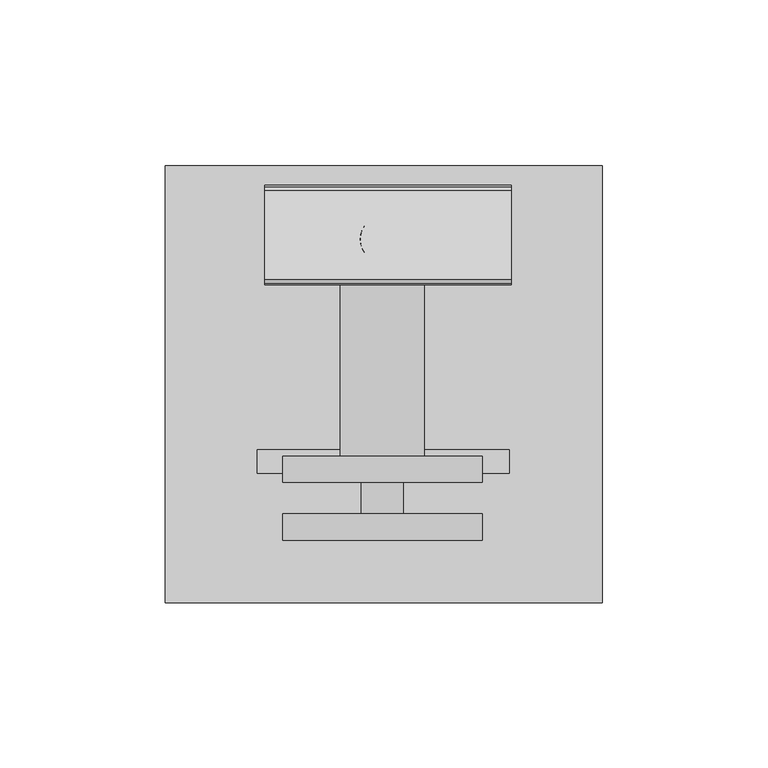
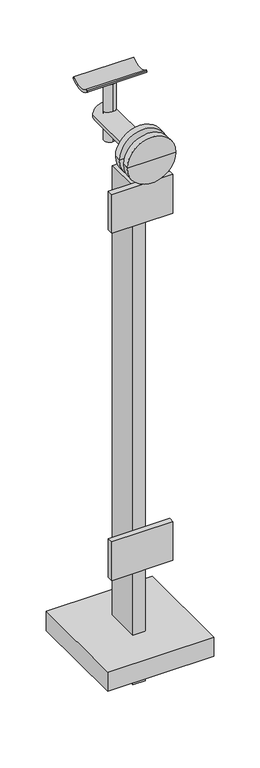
"""IFC4 building model written with IfcOpenShell, lengths in millimetres: proxy geometry, Baluster-End-Post-VIVA-STRUC-Top Mount-Stair : ANCHORED TO CONCRETE_TOP MOUNT STRUC_STAIR."""

from ifc_helpers import new_model, si_unit, point, frame, frame_2d, origin, place, context, project, spatial, polyline, circle_curve, trimmed, segment, composite_curve, outline, extrude, source, transform, mapped, element, save
from ifc_brep_helpers import plane_surface, cylinder_surface, advanced_brep


def building_element_proxy_0a0706d1(model_context):
    return source(origin(), model_context, "Body", "SolidModel", [
        advanced_brep(
        [(-30.4813346, -136.2128652, 156.7243555), (-6.6688346, -136.2128652, 156.7243555), (6.0311654, -136.2128652, 156.7243555), (29.8436654, -136.2128652, 156.7243555), (-30.4813346, -144.1503652, 156.7243555), (29.8436654, -144.1503652, 156.7243555), (-30.4813346, -118.7498509, 156.7243555), (-13.0188346, -118.7498509, 156.7243555), (12.3811654, -118.7498509, 156.7243555), (29.8436654, -118.7498509, 156.7243555), (-30.4813346, -126.6873509, 156.7243555), (29.8436654, -126.6873509, 156.7243555), (-0.3188346, -144.1503652, 156.7243555), (-13.0188346, -39.3748509, 156.7243555), (-0.3188346, -39.3748509, 156.7243555), (12.3811654, -39.3748509, 156.7243555), (-6.6688346, -126.6873509, 156.7243555), (6.0311654, -126.6873509, 156.7243555)],
        [
            (0, 1),
            (1, 2, circle_curve(frame((-0.3188346, -136.2128652, 156.7243555), z_axis=(0.0, -1.0, 0.0), x_axis=(1.0, 0.0, 0.0)), 6.35)),
            (2, 3),
            (3, 0, circle_curve(frame((-0.3188346, -136.2128652, 156.7243555), z_axis=(0.0, 1.0, 0.0), x_axis=(1.0, 0.0, 0.0)), 30.1625)),
            (4, 0),
            (3, 5),
            (5, 4, circle_curve(frame((-0.3188346, -144.1503652, 156.7243555), z_axis=(0.0, 1.0, 0.0), x_axis=(1.0, 0.0, 0.0)), 30.1625)),
            (6, 7),
            (7, 8, circle_curve(frame((-0.3188346, -118.7498509, 156.7243555), z_axis=(0.0, -1.0, 0.0), x_axis=(1.0, 0.0, 0.0)), 12.7)),
            (8, 9),
            (9, 6, circle_curve(frame((-0.3188346, -118.7498509, 156.7243555), z_axis=(0.0, 1.0, 0.0), x_axis=(1.0, 0.0, 0.0)), 30.1625)),
            (10, 6),
            (9, 11),
            (11, 10, circle_curve(frame((-0.3188346, -126.6873509, 156.7243555), z_axis=(0.0, 1.0, 0.0), x_axis=(1.0, 0.0, 0.0)), 30.1625)),
            (3, 0, circle_curve(frame((-0.3188346, -136.2128652, 156.7243555), z_axis=(0.0, -1.0, 0.0), x_axis=(1.0, 0.0, 0.0)), 30.1625)),
            (4, 5, circle_curve(frame((-0.3188346, -144.1503652, 156.7243555), z_axis=(0.0, 1.0, 0.0), x_axis=(1.0, 0.0, 0.0)), 30.1625)),
            (12, 4),
            (5, 12),
            (13, 14),
            (14, 15),
            (15, 13, circle_curve(frame((-0.3188346, -39.3748509, 156.7243555), z_axis=(0.0, 1.0, 0.0), x_axis=(1.0, 0.0, 0.0)), 12.7)),
            (13, 15, circle_curve(frame((-0.3188346, -39.3748509, 156.7243555), z_axis=(0.0, 1.0, 0.0), x_axis=(1.0, 0.0, 0.0)), 12.7)),
            (7, 13),
            (15, 8),
            (7, 8, circle_curve(frame((-0.3188346, -118.7498509, 156.7243555), z_axis=(0.0, 1.0, 0.0), x_axis=(1.0, 0.0, 0.0)), 12.7)),
            (6, 9, circle_curve(frame((-0.3188346, -118.7498509, 156.7243555), z_axis=(0.0, 1.0, 0.0), x_axis=(1.0, 0.0, 0.0)), 30.1625)),
            (10, 11, circle_curve(frame((-0.3188346, -126.6873509, 156.7243555), z_axis=(0.0, 1.0, 0.0), x_axis=(1.0, 0.0, 0.0)), 30.1625)),
            (16, 10),
            (11, 17),
            (17, 16, circle_curve(frame((-0.3188346, -126.6873509, 156.7243555), z_axis=(0.0, 1.0, 0.0), x_axis=(1.0, 0.0, 0.0)), 6.35)),
            (16, 17, circle_curve(frame((-0.3188346, -126.6873509, 156.7243555), z_axis=(0.0, 1.0, 0.0), x_axis=(1.0, 0.0, 0.0)), 6.35)),
            (1, 16),
            (17, 2),
            (1, 2, circle_curve(frame((-0.3188346, -136.2128652, 156.7243555), z_axis=(0.0, 1.0, 0.0), x_axis=(1.0, 0.0, 0.0)), 6.35)),
        ],
        [
            plane_surface(frame((-0.3188346, -136.2128652, 156.7243555), z_axis=(0.0, 1.0, 0.0), x_axis=(1.0, 0.0, 0.0))),
            cylinder_surface(frame((-0.3188346, -1650.6873509, 156.7243555), z_axis=(0.0, -1.0, 0.0), x_axis=(1.0, 0.0, 0.0)), 30.1625),
            plane_surface(frame((-0.3188346, -118.7498509, 156.7243555), z_axis=(0.0, 1.0, 0.0), x_axis=(1.0, 0.0, 0.0))),
            plane_surface(frame((-0.3188346, -144.1503652, 156.7243555), z_axis=(0.0, -1.0, 0.0), x_axis=(1.0, 0.0, 0.0))),
            plane_surface(frame((-0.3188346, -39.3748509, 156.7243555), z_axis=(0.0, 1.0, 0.0), x_axis=(1.0, 0.0, 0.0))),
            cylinder_surface(frame((-0.3188346, -1650.6873509, 156.7243555), z_axis=(0.0, -1.0, 0.0), x_axis=(1.0, 0.0, 0.0)), 12.7),
            plane_surface(frame((-0.3188346, -126.6873509, 156.7243555), z_axis=(0.0, -1.0, 0.0), x_axis=(1.0, 0.0, 0.0))),
            cylinder_surface(frame((-0.3188346, -1650.6873509, 156.7243555), z_axis=(0.0, -1.0, 0.0), x_axis=(1.0, 0.0, 0.0)), 6.35),
        ],
        [
            (0, [[1, 2, 3, 4]]),
            (1, [[5, -4, 6, 7]]),
            (2, [[8, 9, 10, 11]]),
            (1, [[12, -11, 13, 14]]),
            (1, [[-6, 15, -5, 16]]),
            (3, [[17, -7, 18]]),
            (3, [[-18, -16, -17]]),
            (4, [[19, 20, 21]]),
            (4, [[-20, -19, 22]]),
            (5, [[23, -21, 24, -9]]),
            (5, [[-24, -22, -23, 25]]),
            (2, [[-10, -25, -8, 26]]),
            (1, [[-13, -26, -12, 27]]),
            (6, [[28, -14, 29, 30]]),
            (6, [[-29, -27, -28, 31]]),
            (7, [[32, -30, 33, -2]]),
            (7, [[-33, -31, -32, 34]]),
            (0, [[-3, -34, -1, -15]]),
        ],
    ),
        extrude(outline(composite_curve([segment(trimmed(circle_curve(frame_2d((0.0, 7.0)), 7.0), [point((0.0, 14.0))], [point((0.0, 0.0))], False, "CARTESIAN"), True, "CONTINUOUS"), segment(trimmed(circle_curve(frame_2d((0.0, 7.0)), 7.0), [point((0.0, 0.0))], [point((0.0, 14.0))], False, "CARTESIAN"), True, "CONTINUOUS")], self_intersect=False)), frame((-0.0962106, -60.22249, 129.823392), z_axis=(0.0012664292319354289, 0.0, 0.9999991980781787), x_axis=(0.9999991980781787, 0.0, -0.0012664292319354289)), (0.0, 0.0, 1.0), 75.97),
        extrude(outline(composite_curve([segment(trimmed(circle_curve(frame_2d((18.6575251, 0.3952033)), 19.05), [point((5.2466064, 13.9247915))], [point((5.2466064, -13.134385))], True, "CARTESIAN"), True, "CONTINUOUS"), segment(polyline([(5.2466064, -13.134385), (4.2292193, -14.1607746)]), True, "CONTINUOUS"), segment(trimmed(circle_curve(frame_2d((3.1638974, -13.1047967)), 1.5), [point((4.2292193, -14.1607746))], [point((2.0329757, -14.0901982))], False, "CARTESIAN"), True, "CONTINUOUS"), segment(trimmed(circle_curve(frame_2d((18.6575251, 0.3952033)), 22.05), [point((2.0329757, -14.0901982))], [point((2.0329757, 14.8806047))], False, "CARTESIAN"), True, "CONTINUOUS"), segment(trimmed(circle_curve(frame_2d((3.1638974, 13.8952033)), 1.5), [point((2.0329757, 14.8806047))], [point((4.2292193, 14.9511811))], False, "CARTESIAN"), True, "CONTINUOUS"), segment(polyline([(4.2292193, 14.9511811), (5.2466064, 13.9247915)]), True, "CONTINUOUS")], self_intersect=False)), frame((-35.8856441, -51.4952577, 209.2122068), z_axis=(0.9999999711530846, 0.0, 0.0002401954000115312), x_axis=(-0.0002401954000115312, 0.0, 0.9999999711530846)), (0.0, 0.0, 1.0), 74.5229187),
        extrude(outline(polyline([(-38.1007192, -123.8478567), (-38.1007192, -116.7358567), (38.1007192, -116.7358567), (38.1007192, -123.8478567), (-38.1007192, -123.8478567)])), frame((0.0, 0.0, 61.2476928), z_axis=(0.0, 0.0, 1.0), x_axis=(1.0, 0.0, 0.0)), (0.0, 0.0, 1.0), 50.8),
        extrude(outline(polyline([(-38.1007192, -123.8478567), (-38.1007192, -116.7358567), (38.1007192, -116.7358567), (38.1007192, -123.8478567), (-38.1007192, -123.8478567)])), frame((0.0, 0.0, -395.9523072), z_axis=(0.0, 0.0, 1.0), x_axis=(1.0, 0.0, 0.0)), (0.0, 0.0, 1.0), 50.8),
        extrude(outline(polyline([(66.11875, -30.878288), (66.11875, -162.878288), (-65.88125, -162.878288), (-65.88125, -30.878288), (66.11875, -30.878288)])), frame((0.0, 0.0, -508.6286445), z_axis=(0.0, 0.0, 1.0), x_axis=(1.0, 0.0, 0.0)), (0.0, 0.0, 1.0), 25.4),
        extrude(outline(polyline([(-7.9375, -72.2858567), (7.9375, -72.2858567), (7.9375, -116.7358567), (-7.9375, -116.7358567), (-7.9375, -72.2858567)])), frame((0.0, 0.0, -548.3523072), z_axis=(0.0, 0.0, 1.0), x_axis=(1.0, 0.0, 0.0)), (0.0, 0.0, 1.0), 656.9868373),
    ])


if __name__ == "__main__":
    model = new_model("IFC4")
    model_context = context("Model", 3, world=origin())
    ifc_project = project(units=[si_unit("LENGTHUNIT", "METRE", prefix="MILLI")], contexts=[model_context])
    site = spatial("IfcSite", under=ifc_project)
    building = spatial("IfcBuilding", under=site)
    placement = place(None, origin())
    building_element_proxy_shape = building_element_proxy_0a0706d1(model_context)
    element("IfcBuildingElementProxy", 1, Name="Baluster-End-Post-VIVA-STRUC-Top Mount-Stair : ANCHORED TO CONCRETE_TOP MOUNT STRUC_STAIR", ObjectType="Baluster-End-Post-VIVA-STRUC-Top Mount-Stair : ANCHORED TO CONCRETE_TOP MOUNT STRUC_STAIR", at=placement, inside=building, context=model_context, shape_type="MappedRepresentation", body=[
        mapped(building_element_proxy_shape, transform((0.0, 0.0, 0.0), x_axis=(1.0, 0.0, 0.0), y_axis=(0.0, 1.0, 0.0), z_axis=(0.0, 0.0, 1.0))),
    ])
    save(model, "model.ifc")
